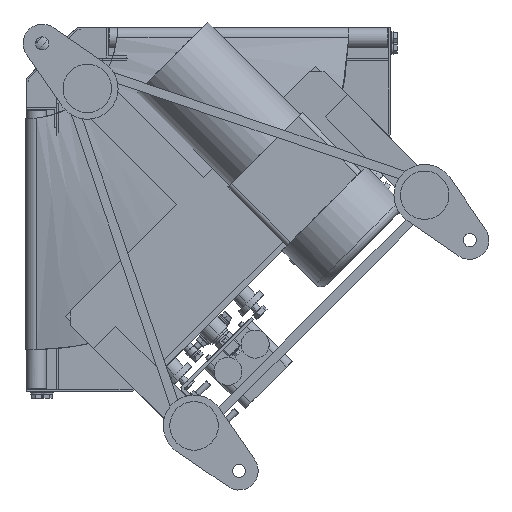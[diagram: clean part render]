
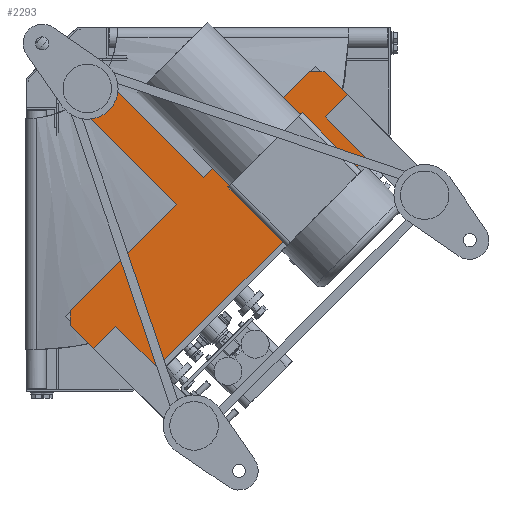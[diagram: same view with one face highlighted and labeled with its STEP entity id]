
A CAD part, front view. The second image highlights one B-rep face of the part: STEP entity #2293.
In plain terms, the highlighted planar face has unit normal (0, -1, 0).
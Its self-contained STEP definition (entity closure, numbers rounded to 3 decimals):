
#2293=ADVANCED_FACE('',(#6335),#6334,.T.);
#6334=PLANE('',#16829);
#6335=FACE_OUTER_BOUND('',#16830,.T.);
#16826=CARTESIAN_POINT('',(2.728,-167.5,-2.728));
#16827=DIRECTION('',(0.,-1.,0.));
#16828=DIRECTION('',(0.,0.,-1.));
#16829=AXIS2_PLACEMENT_3D('',#16826,#16827,#16828);
#16830=EDGE_LOOP('',(#22348,#22349,#22350,#22351,#22352,#22353,#22354,#22355,#22356,#22357));
#22348=ORIENTED_EDGE('',*,*,#26280,.F.);
#22349=ORIENTED_EDGE('',*,*,#26293,.T.);
#22350=ORIENTED_EDGE('',*,*,#26294,.T.);
#22351=ORIENTED_EDGE('',*,*,#26295,.T.);
#22352=ORIENTED_EDGE('',*,*,#26296,.T.);
#22353=ORIENTED_EDGE('',*,*,#26297,.T.);
#22354=ORIENTED_EDGE('',*,*,#26298,.T.);
#22355=ORIENTED_EDGE('',*,*,#26299,.T.);
#22356=ORIENTED_EDGE('',*,*,#26275,.F.);
#22357=ORIENTED_EDGE('',*,*,#26269,.F.);
#26269=EDGE_CURVE('',#33023,#33024,#33025,.T.);
#26275=EDGE_CURVE('',#33024,#33065,#33066,.T.);
#26280=EDGE_CURVE('',#33099,#33023,#33100,.T.);
#26293=EDGE_CURVE('',#33099,#33187,#33188,.T.);
#26294=EDGE_CURVE('',#33187,#33194,#33195,.T.);
#26295=EDGE_CURVE('',#33194,#33201,#33202,.T.);
#26296=EDGE_CURVE('',#33201,#33208,#33209,.T.);
#26297=EDGE_CURVE('',#33208,#33215,#33216,.T.);
#26298=EDGE_CURVE('',#33215,#33222,#33223,.T.);
#26299=EDGE_CURVE('',#33222,#33065,#33229,.T.);
#33023=VERTEX_POINT('',#47713);
#33024=VERTEX_POINT('',#47714);
#33025=LINE('',#47715,#47716);
#33065=VERTEX_POINT('',#47739);
#33066=LINE('',#47740,#47741);
#33099=VERTEX_POINT('',#47758);
#33100=LINE('',#47759,#47760);
#33187=VERTEX_POINT('',#47807);
#33188=LINE('',#47808,#47809);
#33194=VERTEX_POINT('',#47811);
#33195=LINE('',#47812,#47813);
#33201=VERTEX_POINT('',#47815);
#33202=LINE('',#47816,#47817);
#33208=VERTEX_POINT('',#47819);
#33209=LINE('',#47820,#47821);
#33215=VERTEX_POINT('',#47823);
#33216=LINE('',#47824,#47825);
#33222=VERTEX_POINT('',#47827);
#33223=LINE('',#47828,#47829);
#33229=LINE('',#47831,#47832);
#47713=CARTESIAN_POINT('',(12.728,-167.5,-39.598));
#47714=CARTESIAN_POINT('',(39.598,-167.5,-12.728));
#47715=CARTESIAN_POINT('',(12.728,-167.5,-39.598));
#47716=VECTOR('',#47717,38.);
#47717=DIRECTION('',(0.707,0.,0.707));
#47739=CARTESIAN_POINT('',(175.362,-167.5,-148.492));
#47740=CARTESIAN_POINT('',(39.598,-167.5,-12.728));
#47741=VECTOR('',#47742,192.);
#47742=DIRECTION('',(0.707,0.,-0.707));
#47758=CARTESIAN_POINT('',(148.492,-167.5,-175.362));
#47759=CARTESIAN_POINT('',(148.492,-167.5,-175.362));
#47760=VECTOR('',#47761,192.);
#47761=DIRECTION('',(-0.707,0.,0.707));
#47807=CARTESIAN_POINT('',(43.487,-167.5,-280.368));
#47808=CARTESIAN_POINT('',(148.492,-167.5,-175.362));
#47809=VECTOR('',#47810,148.5);
#47810=DIRECTION('',(-0.707,0.,-0.707));
#47811=CARTESIAN_POINT('',(43.487,-167.5,-294.51));
#47812=CARTESIAN_POINT('',(43.487,-167.5,-280.368));
#47813=VECTOR('',#47814,14.142);
#47814=DIRECTION('',(0.,0.,-1.));
#47815=CARTESIAN_POINT('',(107.127,-167.5,-358.15));
#47816=CARTESIAN_POINT('',(43.487,-167.5,-294.51));
#47817=VECTOR('',#47818,90.);
#47818=DIRECTION('',(0.707,0.,-0.707));
#47819=CARTESIAN_POINT('',(358.15,-167.5,-107.127));
#47820=CARTESIAN_POINT('',(107.127,-167.5,-358.15));
#47821=VECTOR('',#47822,355.);
#47822=DIRECTION('',(0.707,0.,0.707));
#47823=CARTESIAN_POINT('',(294.51,-167.5,-43.487));
#47824=CARTESIAN_POINT('',(358.15,-167.5,-107.127));
#47825=VECTOR('',#47826,90.);
#47826=DIRECTION('',(-0.707,0.,0.707));
#47827=CARTESIAN_POINT('',(280.368,-167.5,-43.487));
#47828=CARTESIAN_POINT('',(294.51,-167.5,-43.487));
#47829=VECTOR('',#47830,14.142);
#47830=DIRECTION('',(-1.,0.,0.));
#47831=CARTESIAN_POINT('',(280.368,-167.5,-43.487));
#47832=VECTOR('',#47833,148.5);
#47833=DIRECTION('',(-0.707,0.,-0.707));
